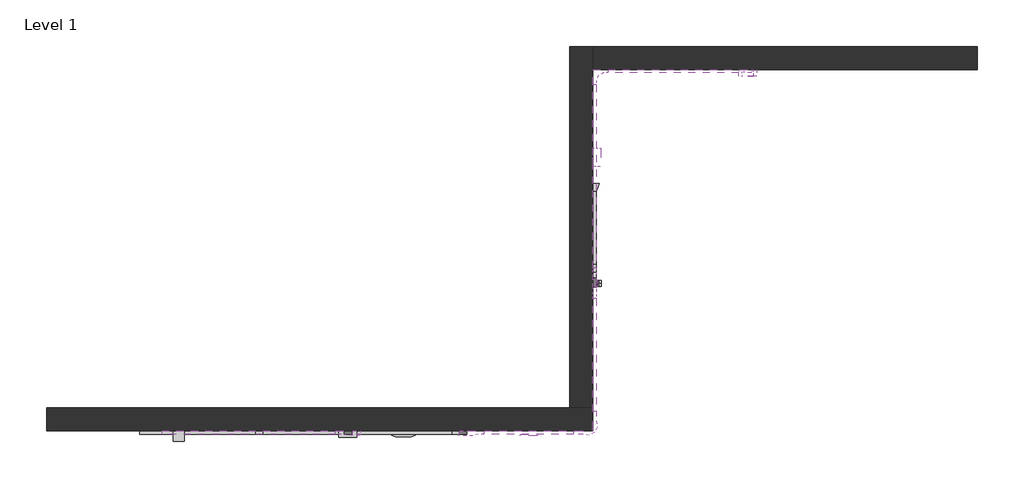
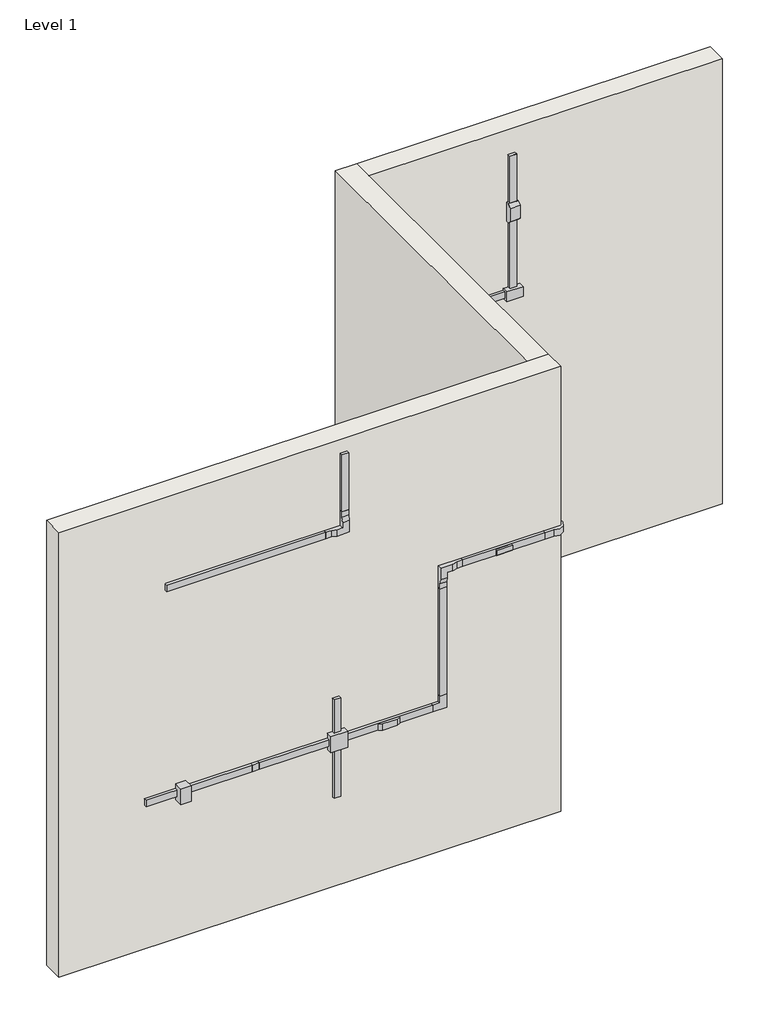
# One storey, incomplete: 36 proxies, 3 walls.
"""IFC4 building model written with IfcOpenShell, lengths in millimetres."""

from ifc_helpers import new_model, si_unit, origin, origin_with_axes, place, context, project, spatial, polyline, outline, extrude, faceted_brep, transform, mapped, element, save
from components import electrical_fixtures_c74d62cf, electrical_fixtures_f7514c31, electrical_fixtures_6f6b49fb, electrical_fixtures_1dfa95d1, electrical_fixtures_cd09dcbf, proxy_1_2_fog_white_882b4655, proxy_10_foot_ivory_969471e2, proxy_10_foot_ivory_fb6cb572, proxy_15a_isolated_duplex_497e1978, proxy_5_foot_fog_white_a0005563, proxy_5_foot_fog_white_d7b9e983, proxy_5_foot_fog_white_20a17563, proxy_5_foot_fog_white_e906f57e, proxy_5_foot_fog_white_42f23179, proxy_5_foot_fog_white_f3e463e6, proxy_5_foot_fog_white_9b353d6c, proxy_5_foot_fog_white_07b1bb4c, proxy_5_foot_fog_white_203c3073, proxy_5_foot_fog_white_44e3194b, proxy_5_foot_fog_white_301fe689, proxy_5_foot_fog_white_09a12301, proxy_5_foot_fog_white_b289a441, proxy_5_foot_fog_white_8e3de450, duplex_fog_white_c4e692c3, fog_white_bf7c3a35, fog_white_fadfb5dc, fog_white_5ed62704, fog_white_7784f8a2, ivory_ff5f309a, one_gang_fog_white_aed4aa5e, standard_ecfdeb52, two_gang_extra_deep_fog_white_cad744ff

model = new_model("IFC4")

# Units and contexts
model_context = context("Model", 3, world=origin())
ifc_project = project(units=[si_unit("LENGTHUNIT", "METRE", prefix="MILLI")], contexts=[model_context])

# Site, building, storey
site = spatial("IfcSite", under=ifc_project)
building = spatial("IfcBuilding", under=site)
storey = spatial("IfcBuildingStorey", under=building, Name="Level 1", Elevation=0.0)

# Proxies
placement = place(None, origin())
electrical_fixtures_shape = electrical_fixtures_c74d62cf(model_context)
element("IfcBuildingElementProxy", 1, Name="Elbow-2400_Series-Wiremold-Flat : Radiused Ivory", ObjectType="Elbow-2400_Series-Wiremold-Flat : Radiused Ivory", at=placement, inside=storey, context=model_context, shape_type="MappedRepresentation", body=[
    mapped(electrical_fixtures_shape, transform((2634.8713134, 1963.1766815, 2702.8919318), x_axis=(1.0, 0.0, 0.0), y_axis=(0.0, 0.0, 1.0), z_axis=(0.0, -1.0, 0.0))),
])
element("IfcBuildingElementProxy", 2, Name="Elbow-2400_Series-Wiremold-Flat : Radiused Fog White", ObjectType="Elbow-2400_Series-Wiremold-Flat : Radiused Fog White", at=placement, inside=storey, context=model_context, shape_type="MappedRepresentation", body=[
    mapped(electrical_fixtures_shape, transform((3339.0096677, 1963.1766815, 2149.6329001), x_axis=(-1.0, 0.0, 0.0), y_axis=(0.0, 0.0, -1.0), z_axis=(0.0, -1.0, 0.0))),
])
electrical_fixtures_2_shape = electrical_fixtures_f7514c31(model_context)
element("IfcBuildingElementProxy", 3, Name="Elbow-2400_Series-Wiremold-External : Radiused, Fog White", ObjectType="Elbow-2400_Series-Wiremold-External : Radiused, Fog White", at=placement, inside=storey, context=model_context, shape_type="MappedRepresentation", body=[
    mapped(electrical_fixtures_2_shape, transform((4195.3973575, 1963.1766815, 2149.6329001), x_axis=(1.0, 0.0, 0.0), y_axis=(0.0, 0.0, 1.0), z_axis=(0.0, -1.0, 0.0))),
])
electrical_fixtures_3_shape = electrical_fixtures_6f6b49fb(model_context)
element("IfcBuildingElementProxy", 4, Name="Tee-2400_Series-Wiremold : Radiused Fog White", ObjectType="Tee-2400_Series-Wiremold : Radiused Fog White", at=placement, inside=storey, context=model_context, shape_type="MappedRepresentation", body=[
    mapped(electrical_fixtures_3_shape, transform((4195.3973575, 2937.9016815, 2149.6329001), x_axis=(0.0, -1.0, 0.0), y_axis=(0.0, 0.0, -1.0), z_axis=(1.0, 0.0, 0.0))),
])
element("IfcBuildingElementProxy", 5, Name="Tee-2400_Series-Wiremold : Radiused Fog White", ObjectType="Tee-2400_Series-Wiremold : Radiused Fog White", at=placement, inside=storey, context=model_context, shape_type="MappedRepresentation", body=[
    mapped(electrical_fixtures_3_shape, transform((4195.3973575, 2937.9016815, 1161.0172751), x_axis=(0.0, 0.0, -1.0), y_axis=(0.0, 1.0, 0.0), z_axis=(1.0, 0.0, 0.0))),
])
electrical_fixtures_4_shape = electrical_fixtures_1dfa95d1(model_context)
element("IfcBuildingElementProxy", 6, Name="Elbow-2400_Series-Wiremold-Internal : Radiused, Fog White", ObjectType="Elbow-2400_Series-Wiremold-Internal : Radiused, Fog White", at=placement, inside=storey, context=model_context, shape_type="MappedRepresentation", body=[
    mapped(electrical_fixtures_4_shape, transform((4195.3973575, 4350.7766815, 2149.6329001), x_axis=(0.0, 1.0, 0.0), y_axis=(0.0, 0.0, 1.0), z_axis=(1.0, 0.0, 0.0))),
])
electrical_fixtures_5_shape = electrical_fixtures_cd09dcbf(model_context)
element("IfcBuildingElementProxy", 7, Name="Device_Plate-2400_Series-Wiremold-Bracket_And_Frame : 106 Bracket, Two Network Modules Fog White", ObjectType="Device_Plate-2400_Series-Wiremold-Bracket_And_Frame : 106 Bracket, Two Network Modules Fog White", at=placement, inside=storey, context=model_context, shape_type="MappedRepresentation", body=[
    mapped(electrical_fixtures_5_shape, transform((2945.3096677, 1940.9516815, 1120.1264501), x_axis=(-1.0, 0.0, 0.0), y_axis=(0.0, 0.0, -1.0), z_axis=(0.0, -1.0, 0.0))),
])
proxy_1_2_fog_white_shape = proxy_1_2_fog_white_882b4655(model_context)
element("IfcBuildingElementProxy", 8, Name="End_Fitting-2400_Series-Wiremold-Entrance : 1/2, Fog White", ObjectType="End_Fitting-2400_Series-Wiremold-Entrance : 1/2, Fog White", at=placement, inside=storey, context=model_context, shape_type="MappedRepresentation", body=[
    mapped(proxy_1_2_fog_white_shape, transform((4195.3973575, 3570.9173065, 1161.0172751), x_axis=(0.0, 1.0, 0.0), y_axis=(0.0, 0.0, 1.0), z_axis=(1.0, 0.0, 0.0))),
])
proxy_10_foot_ivory_shape = proxy_10_foot_ivory_969471e2(model_context)
element("IfcBuildingElementProxy", 9, Name="Raceway-2400_Series-Wiremold-Steel : 10 Foot Ivory", ObjectType="Raceway-2400_Series-Wiremold-Steel : 10 Foot Ivory", at=placement, inside=storey, context=model_context, shape_type="MappedRepresentation", body=[
    mapped(proxy_10_foot_ivory_shape, transform((1350.9806884, 1963.1766815, 2702.8919318), x_axis=(1.0, 0.0, 0.0), y_axis=(0.0, 0.0, 1.0), z_axis=(0.0, -1.0, 0.0))),
])
proxy_10_foot_ivory_2_shape = proxy_10_foot_ivory_fb6cb572(model_context)
element("IfcBuildingElementProxy", 10, Name="Raceway-2400_Series-Wiremold-Steel : 10 Foot Ivory", ObjectType="Raceway-2400_Series-Wiremold-Steel : 10 Foot Ivory", at=placement, inside=storey, context=model_context, shape_type="MappedRepresentation", body=[
    mapped(proxy_10_foot_ivory_2_shape, transform((2634.8713134, 1963.1766815, 3275.5919568), x_axis=(0.0, 0.0, -1.0), y_axis=(1.0, 0.0, 0.0), z_axis=(0.0, -1.0, 0.0))),
])
proxy_15a_isolated_duplex_shape = proxy_15a_isolated_duplex_497e1978(model_context)
element("IfcBuildingElementProxy", 11, Name="Device_Plate-2400_Series-Wiremold-Bracket_And_Frame : 15A Isolated Duplex", ObjectType="Device_Plate-2400_Series-Wiremold-Bracket_And_Frame : 15A Isolated Duplex", at=placement, inside=storey, context=model_context, shape_type="MappedRepresentation", body=[
    mapped(proxy_15a_isolated_duplex_shape, transform((3774.1535251, 1940.9516815, 2149.6329001), x_axis=(-1.0, 0.0, 0.0), y_axis=(0.0, 0.0, -1.0), z_axis=(0.0, -1.0, 0.0))),
])
element("IfcBuildingElementProxy", 12, Name="Device_Plate-2400_Series-Wiremold-Bracket_And_Frame : 15A Isolated Duplex", ObjectType="Device_Plate-2400_Series-Wiremold-Bracket_And_Frame : 15A Isolated Duplex", at=placement, inside=storey, context=model_context, shape_type="MappedRepresentation", body=[
    mapped(proxy_15a_isolated_duplex_shape, transform((4217.6223575, 2937.9016815, 1914.6829001), x_axis=(0.0, 0.0, 1.0), y_axis=(0.0, -1.0, 0.0), z_axis=(1.0, 0.0, 0.0))),
])
proxy_5_foot_fog_white_shape = proxy_5_foot_fog_white_a0005563(model_context)
element("IfcBuildingElementProxy", 13, Name="Raceway-2400_Series-Wiremold-Steel : 5 Foot Fog White", ObjectType="Raceway-2400_Series-Wiremold-Steel : 5 Foot Fog White", at=placement, inside=storey, context=model_context, shape_type="MappedRepresentation", body=[
    mapped(proxy_5_foot_fog_white_shape, transform((1203.2534365, 1963.1766815, 1120.1264501), x_axis=(1.0, 0.0, 0.0), y_axis=(0.0, 0.0, 1.0), z_axis=(0.0, -1.0, 0.0))),
])
element("IfcBuildingElementProxy", 14, Name="Raceway-2400_Series-Wiremold-Steel : 5 Foot Fog White", ObjectType="Raceway-2400_Series-Wiremold-Steel : 5 Foot Fog White", at=placement, inside=storey, context=model_context, shape_type="MappedRepresentation", body=[
    mapped(proxy_5_foot_fog_white_shape, transform((4195.3973575, 2937.9016815, 2024.6172751), x_axis=(0.0, 0.0, -1.0), y_axis=(0.0, 1.0, 0.0), z_axis=(1.0, 0.0, 0.0))),
])
proxy_5_foot_fog_white_2_shape = proxy_5_foot_fog_white_d7b9e983(model_context)
element("IfcBuildingElementProxy", 15, Name="Raceway-2400_Series-Wiremold-Steel : 5 Foot Fog White", ObjectType="Raceway-2400_Series-Wiremold-Steel : 5 Foot Fog White", at=placement, inside=storey, context=model_context, shape_type="MappedRepresentation", body=[
    mapped(proxy_5_foot_fog_white_2_shape, transform((2016.0534365, 1963.1766815, 1120.1264501), x_axis=(1.0, 0.0, 0.0), y_axis=(0.0, 0.0, 1.0), z_axis=(0.0, -1.0, 0.0))),
])
proxy_5_foot_fog_white_3_shape = proxy_5_foot_fog_white_20a17563(model_context)
element("IfcBuildingElementProxy", 16, Name="Raceway-2400_Series-Wiremold-Steel : 5 Foot Fog White", ObjectType="Raceway-2400_Series-Wiremold-Steel : 5 Foot Fog White", at=placement, inside=storey, context=model_context, shape_type="MappedRepresentation", body=[
    mapped(proxy_5_foot_fog_white_3_shape, transform((3339.0096677, 1963.1766815, 1195.9422751), x_axis=(0.0, 0.0, 1.0), y_axis=(-1.0, 0.0, 0.0), z_axis=(0.0, -1.0, 0.0))),
])
proxy_5_foot_fog_white_4_shape = proxy_5_foot_fog_white_e906f57e(model_context)
element("IfcBuildingElementProxy", 17, Name="Raceway-2400_Series-Wiremold-Steel : 5 Foot Fog White", ObjectType="Raceway-2400_Series-Wiremold-Steel : 5 Foot Fog White", at=placement, inside=storey, context=model_context, shape_type="MappedRepresentation", body=[
    mapped(proxy_5_foot_fog_white_4_shape, transform((3479.9096927, 1963.1766815, 2149.6329001), x_axis=(1.0, 0.0, 0.0), y_axis=(0.0, 0.0, 1.0), z_axis=(0.0, -1.0, 0.0))),
])
proxy_5_foot_fog_white_5_shape = proxy_5_foot_fog_white_42f23179(model_context)
element("IfcBuildingElementProxy", 18, Name="Raceway-2400_Series-Wiremold-Steel : 5 Foot Fog White", ObjectType="Raceway-2400_Series-Wiremold-Steel : 5 Foot Fog White", at=placement, inside=storey, context=model_context, shape_type="MappedRepresentation", body=[
    mapped(proxy_5_foot_fog_white_5_shape, transform((4195.3973575, 2090.1766815, 2149.6329001), x_axis=(0.0, 1.0, 0.0), y_axis=(0.0, 0.0, 1.0), z_axis=(1.0, 0.0, 0.0))),
])
proxy_5_foot_fog_white_6_shape = proxy_5_foot_fog_white_f3e463e6(model_context)
element("IfcBuildingElementProxy", 19, Name="Raceway-2400_Series-Wiremold-Steel : 5 Foot Fog White", ObjectType="Raceway-2400_Series-Wiremold-Steel : 5 Foot Fog White", at=placement, inside=storey, context=model_context, shape_type="MappedRepresentation", body=[
    mapped(proxy_5_foot_fog_white_6_shape, transform((4195.3973575, 2937.9016815, 1059.4172751), x_axis=(0.0, 0.0, -1.0), y_axis=(0.0, 1.0, 0.0), z_axis=(1.0, 0.0, 0.0))),
])
proxy_5_foot_fog_white_7_shape = proxy_5_foot_fog_white_9b353d6c(model_context)
element("IfcBuildingElementProxy", 20, Name="Raceway-2400_Series-Wiremold-Steel : 5 Foot Fog White", ObjectType="Raceway-2400_Series-Wiremold-Steel : 5 Foot Fog White", at=placement, inside=storey, context=model_context, shape_type="MappedRepresentation", body=[
    mapped(proxy_5_foot_fog_white_7_shape, transform((4195.3973575, 3062.9173065, 1161.0172751), x_axis=(0.0, 1.0, 0.0), y_axis=(0.0, 0.0, 1.0), z_axis=(1.0, 0.0, 0.0))),
])
proxy_5_foot_fog_white_8_shape = proxy_5_foot_fog_white_07b1bb4c(model_context)
element("IfcBuildingElementProxy", 21, Name="Raceway-2400_Series-Wiremold-Steel : 5 Foot Fog White", ObjectType="Raceway-2400_Series-Wiremold-Steel : 5 Foot Fog White", at=placement, inside=storey, context=model_context, shape_type="MappedRepresentation", body=[
    mapped(proxy_5_foot_fog_white_8_shape, transform((4195.3973575, 3039.5016815, 2149.6329001), x_axis=(0.0, 1.0, 0.0), y_axis=(0.0, 0.0, 1.0), z_axis=(1.0, 0.0, 0.0))),
])
proxy_5_foot_fog_white_9_shape = proxy_5_foot_fog_white_203c3073(model_context)
element("IfcBuildingElementProxy", 22, Name="Raceway-2400_Series-Wiremold-Steel : 5 Foot Fog White", ObjectType="Raceway-2400_Series-Wiremold-Steel : 5 Foot Fog White", at=placement, inside=storey, context=model_context, shape_type="MappedRepresentation", body=[
    mapped(proxy_5_foot_fog_white_9_shape, transform((4296.9973575, 4350.7766815, 2149.6329001), x_axis=(1.0, 0.0, 0.0), y_axis=(0.0, 0.0, 1.0), z_axis=(0.0, -1.0, 0.0))),
])
proxy_5_foot_fog_white_10_shape = proxy_5_foot_fog_white_44e3194b(model_context)
element("IfcBuildingElementProxy", 23, Name="Raceway-2400_Series-Wiremold-Steel : 5 Foot Fog White", ObjectType="Raceway-2400_Series-Wiremold-Steel : 5 Foot Fog White", at=placement, inside=storey, context=model_context, shape_type="MappedRepresentation", body=[
    mapped(proxy_5_foot_fog_white_10_shape, transform((5219.3348575, 4350.7766815, 2186.1454001), x_axis=(0.0, 0.0, 1.0), y_axis=(-1.0, 0.0, 0.0), z_axis=(0.0, -1.0, 0.0))),
])
proxy_5_foot_fog_white_11_shape = proxy_5_foot_fog_white_301fe689(model_context)
element("IfcBuildingElementProxy", 24, Name="Raceway-2400_Series-Wiremold-Steel : 5 Foot Fog White", ObjectType="Raceway-2400_Series-Wiremold-Steel : 5 Foot Fog White", at=placement, inside=storey, context=model_context, shape_type="MappedRepresentation", body=[
    mapped(proxy_5_foot_fog_white_11_shape, transform((2638.3534365, 1963.1766815, 1120.1264501), x_axis=(1.0, 0.0, 0.0), y_axis=(0.0, 0.0, 1.0), z_axis=(0.0, -1.0, 0.0))),
])
proxy_5_foot_fog_white_12_shape = proxy_5_foot_fog_white_09a12301(model_context)
element("IfcBuildingElementProxy", 25, Name="Raceway-2400_Series-Wiremold-Steel : 5 Foot Fog White", ObjectType="Raceway-2400_Series-Wiremold-Steel : 5 Foot Fog White", at=placement, inside=storey, context=model_context, shape_type="MappedRepresentation", body=[
    mapped(proxy_5_foot_fog_white_12_shape, transform((2578.0284365, 1963.1766815, 1434.4514501), x_axis=(0.0, 0.0, -1.0), y_axis=(1.0, 0.0, 0.0), z_axis=(0.0, -1.0, 0.0))),
])
proxy_5_foot_fog_white_13_shape = proxy_5_foot_fog_white_b289a441(model_context)
element("IfcBuildingElementProxy", 26, Name="Raceway-2400_Series-Wiremold-Steel : 5 Foot Fog White", ObjectType="Raceway-2400_Series-Wiremold-Steel : 5 Foot Fog White", at=placement, inside=storey, context=model_context, shape_type="MappedRepresentation", body=[
    mapped(proxy_5_foot_fog_white_13_shape, transform((2578.0284365, 1963.1766815, 1059.8014501), x_axis=(0.0, 0.0, -1.0), y_axis=(1.0, 0.0, 0.0), z_axis=(0.0, -1.0, 0.0))),
])
proxy_5_foot_fog_white_14_shape = proxy_5_foot_fog_white_8e3de450(model_context)
element("IfcBuildingElementProxy", 27, Name="Raceway-2400_Series-Wiremold-Steel : 5 Foot Fog White", ObjectType="Raceway-2400_Series-Wiremold-Steel : 5 Foot Fog White", at=placement, inside=storey, context=model_context, shape_type="MappedRepresentation", body=[
    mapped(proxy_5_foot_fog_white_14_shape, transform((5219.3348575, 4350.7766815, 2835.4329001), x_axis=(0.0, 0.0, 1.0), y_axis=(-1.0, 0.0, 0.0), z_axis=(0.0, -1.0, 0.0))),
])
duplex_fog_white_shape = duplex_fog_white_c4e692c3(model_context)
element("IfcBuildingElementProxy", 28, Name="Device_Plate-2400_Series-Wiremold-Downward : Duplex, Fog White", ObjectType="Device_Plate-2400_Series-Wiremold-Downward : Duplex, Fog White", at=placement, inside=storey, context=model_context, shape_type="MappedRepresentation", body=[
    mapped(duplex_fog_white_shape, transform((4217.6223575, 3769.7516815, 2149.6329001), x_axis=(0.0, 1.0, 0.0), y_axis=(0.0, 0.0, 1.0), z_axis=(1.0, 0.0, 0.0))),
])
fog_white_shape = fog_white_bf7c3a35(model_context)
element("IfcBuildingElementProxy", 29, Name="Elbow-2400_Series-Wiremold-Flat : Fog White", ObjectType="Elbow-2400_Series-Wiremold-Flat : Fog White", at=placement, inside=storey, context=model_context, shape_type="MappedRepresentation", body=[
    mapped(fog_white_shape, transform((3339.0096677, 1963.1766815, 1120.1264501), x_axis=(1.0, 0.0, 0.0), y_axis=(0.0, 0.0, 1.0), z_axis=(0.0, -1.0, 0.0))),
])
fog_white_2_shape = fog_white_fadfb5dc(model_context)
element("IfcBuildingElementProxy", 30, Name="Bridge-2400_Series-Wiremold : Fog White", ObjectType="Bridge-2400_Series-Wiremold : Fog White", at=placement, inside=storey, context=model_context, shape_type="MappedRepresentation", body=[
    mapped(fog_white_2_shape, transform((5219.3348575, 4350.7766815, 2764.7891501), x_axis=(0.0, 0.0, 1.0), y_axis=(-1.0, 0.0, 0.0), z_axis=(0.0, -1.0, 0.0))),
])
fog_white_3_shape = fog_white_5ed62704(model_context)
element("IfcBuildingElementProxy", 31, Name="Blank_End-2400_Series-Wiremold : Fog White", ObjectType="Blank_End-2400_Series-Wiremold : Fog White", at=placement, inside=storey, context=model_context, shape_type="MappedRepresentation", body=[
    mapped(fog_white_3_shape, transform((5219.3348575, 4339.6641815, 3191.0329001), x_axis=(-1.0, 0.0, 0.0), y_axis=(0.0, -1.0, 0.0), z_axis=(0.0, 0.0, 1.0))),
])
fog_white_4_shape = fog_white_7784f8a2(model_context)
element("IfcBuildingElementProxy", 32, Name="Lamp_Holder-2400_Series-Wiremold : Fog White", ObjectType="Lamp_Holder-2400_Series-Wiremold : Fog White", at=placement, inside=storey, context=model_context, shape_type="MappedRepresentation", body=[
    mapped(fog_white_4_shape, transform((4217.6223575, 2937.9016815, 627.6172751), x_axis=(0.0, 0.0, 1.0), y_axis=(0.0, -1.0, 0.0), z_axis=(1.0, 0.0, 0.0))),
])
ivory_shape = ivory_ff5f309a(model_context)
element("IfcBuildingElementProxy", 33, Name="Connector-2400_Series-Wiremold-Side_Reducing : Ivory", ObjectType="Connector-2400_Series-Wiremold-Side_Reducing : Ivory", at=placement, inside=storey, context=model_context, shape_type="MappedRepresentation", body=[
    mapped(ivory_shape, transform((1990.6534365, 1963.1766815, 1120.1264501), x_axis=(1.0, 0.0, 0.0), y_axis=(0.0, 0.0, 1.0), z_axis=(0.0, -1.0, 0.0))),
])
one_gang_fog_white_shape = one_gang_fog_white_aed4aa5e(model_context)
element("IfcBuildingElementProxy", 34, Name="Device_Box-2400_Series-Wiremold-Labor_Saving : One Gang, Fog White", ObjectType="Device_Box-2400_Series-Wiremold-Labor_Saving : One Gang, Fog White", at=placement, inside=storey, context=model_context, shape_type="MappedRepresentation", body=[
    mapped(one_gang_fog_white_shape, transform((1462.0159365, 1940.9516815, 1120.1264501), x_axis=(-1.0, 0.0, 0.0), y_axis=(0.0, 0.0, -1.0), z_axis=(0.0, -1.0, 0.0))),
])
standard_shape = standard_ecfdeb52(model_context)
element("IfcBuildingElementProxy", 35, Name="Transition_Box-2400_Series-Wiremold : Standard", ObjectType="Transition_Box-2400_Series-Wiremold : Standard", at=placement, inside=storey, context=model_context, shape_type="MappedRepresentation", body=[
    mapped(standard_shape, transform((5219.3348575, 4350.7766815, 2149.6329001), x_axis=(1.0, 0.0, 0.0), y_axis=(0.0, 0.0, 1.0), z_axis=(0.0, -1.0, 0.0))),
])
two_gang_extra_deep_fog_white_shape = two_gang_extra_deep_fog_white_cad744ff(model_context)
element("IfcBuildingElementProxy", 36, Name="Device_Box-2400_Series-Wiremold : Two Gang, Extra Deep Fog White", ObjectType="Device_Box-2400_Series-Wiremold : Two Gang, Extra Deep Fog White", at=placement, inside=storey, context=model_context, shape_type="MappedRepresentation", body=[
    mapped(two_gang_extra_deep_fog_white_shape, transform((2578.0284365, 1963.1766815, 1120.1264501), x_axis=(1.0, 0.0, 0.0), y_axis=(0.0, 0.0, 1.0), z_axis=(0.0, -1.0, 0.0))),
])

# Walls
element("IfcWall", 37, ObjectType="Exterior - 6\" Generic", at=placement, inside=storey, context=model_context, shape_type="Brep", body=[
    faceted_brep([(588.5973575, 1963.1766815, 0.0), (4195.3973575, 1963.1766815, 0.0), (4195.3973575, 1963.1766815, 3380.2427413), (588.5973575, 1963.1766815, 3380.2427413), (588.5973575, 2115.5766815, 0.0), (588.5973575, 2115.5766815, 3380.2427413), (4042.9973575, 2115.5766815, 3380.2427413), (4195.3973575, 2115.5766815, 3380.2427413), (4195.3973575, 2115.5766815, 0.0), (4042.9973575, 2115.5766815, 0.0)], [[[0, 1, 2, 3]], [[4, 5, 6, 7, 8, 9]], [[1, 0, 4, 9, 8]], [[3, 2, 7, 6, 5]], [[0, 3, 5, 4]], [[2, 1, 8, 7]]]),
])
element("IfcWall", 38, ObjectType="Exterior - 6\" Generic", at=placement, inside=storey, context=model_context, shape_type="Brep", body=[
    faceted_brep([(4195.3973575, 2115.5766815, 0.0), (4195.3973575, 4350.7766815, 0.0), (4195.3973575, 4503.1766815, 0.0), (4195.3973575, 4503.1766815, 3380.2427413), (4195.3973575, 4350.7766815, 3380.2427413), (4195.3973575, 2115.5766815, 3380.2427413), (4042.9973575, 2115.5766815, 0.0), (4042.9973575, 2115.5766815, 3380.2427413), (4042.9973575, 4503.1766815, 3380.2427413), (4042.9973575, 4503.1766815, 0.0)], [[[0, 1, 2, 3, 4, 5]], [[6, 7, 8, 9]], [[2, 1, 0, 6, 9]], [[5, 4, 3, 8, 7]], [[0, 5, 7, 6]], [[3, 2, 9, 8]]]),
])
element("IfcWall", 39, ObjectType="Exterior - 6\" Generic", at=placement, inside=storey, context=model_context, shape_type="SweptSolid", body=[
    extrude(outline(polyline([(6735.3973575, 4350.7766815), (4195.3973575, 4350.7766815), (4195.3973575, 4503.1766815), (6735.3973575, 4503.1766815), (6735.3973575, 4350.7766815)])), origin_with_axes(), (0.0, 0.0, 1.0), 3380.2427413),
])

save(model, "model.ifc")
